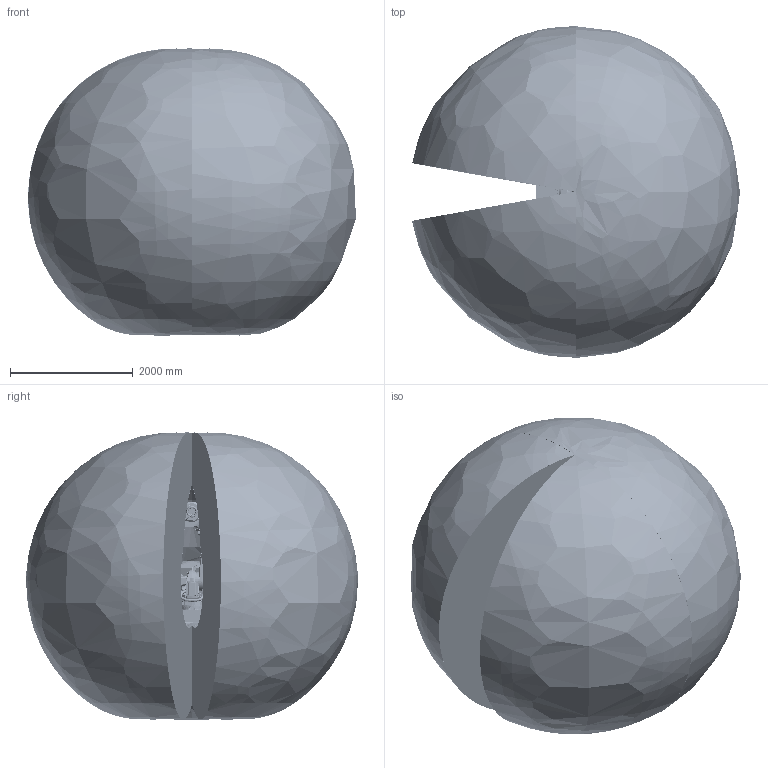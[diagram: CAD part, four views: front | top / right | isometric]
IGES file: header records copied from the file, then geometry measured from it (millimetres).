
Start section: SolidWorks IGES file using analytic representation for surfaces
Global section: file name: C:\Users\SEALDUN\OneDrive - ABB\Documents\R&D Robotics\Work Items\WI 632927 light weight hole removal\5710_Lightweight_AllFormats\IGES\IRB5710_90kg-270_OC_03_IGES_J\IRB5710_90kg-270_OC_03_ASM.igs; native system: SolidWorks 2024; preprocessor: SolidWorks 2024; author: SEALDUN; date: 250709.173624; units: millimetre
Bounding box: 5335.75 x 5401.97 x 4670.11 mm (x, y, z)
Surface area: 121601515.1 mm2 (no closed solid volume)
Topology: 0 solids, 0 shells, 6383 faces, 99296 edges, 99124 vertices
Faces by surface type: bspline 3714, revolution 2669
